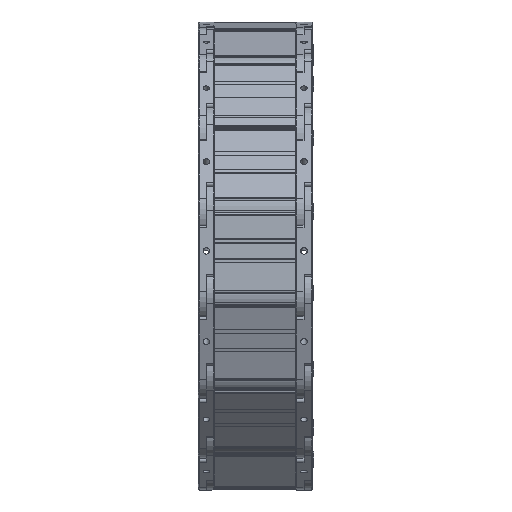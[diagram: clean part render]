
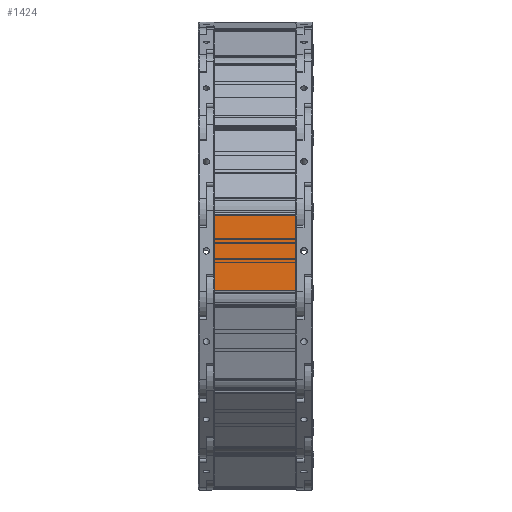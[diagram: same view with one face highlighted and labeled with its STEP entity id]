
A CAD part, front view. The second image highlights one B-rep face of the part: STEP entity #1424.
In plain terms, the highlighted planar face has unit normal (0, -0.999, 0.04) as drawn and (0, 0, -1) by its records, which use the part's own axes.
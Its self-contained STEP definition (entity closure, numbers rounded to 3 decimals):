
#200=CARTESIAN_POINT('',(20.,78.787,-36.5));
#201=VERTEX_POINT('',#200);
#252=CARTESIAN_POINT('',(20.,98.862,-36.5));
#253=VERTEX_POINT('',#252);
#261=CARTESIAN_POINT('',(20.,78.787,-36.5));
#262=DIRECTION('',(0.0,1.0,0.0));
#263=VECTOR('',#262,20.075);
#264=LINE('',#261,#263);
#265=EDGE_CURVE('',#201,#253,#264,.T.);
#1329=CARTESIAN_POINT('',(20.0,6.138,-36.5));
#1330=VERTEX_POINT('',#1329);
#1338=CARTESIAN_POINT('',(120.0,6.138,-36.5));
#1339=VERTEX_POINT('',#1338);
#1340=CARTESIAN_POINT('',(20.0,6.138,-36.5));
#1341=DIRECTION('',(1.0,0.0,0.0));
#1342=VECTOR('',#1341,100.0);
#1343=LINE('',#1340,#1342);
#1344=EDGE_CURVE('',#1330,#1339,#1343,.T.);
#1362=CARTESIAN_POINT('',(120.,21.213,-36.5));
#1363=VERTEX_POINT('',#1362);
#1385=CARTESIAN_POINT('',(120.,21.213,-36.5));
#1386=DIRECTION('',(0.0,-1.0,0.0));
#1387=VECTOR('',#1386,15.075);
#1388=LINE('',#1385,#1387);
#1389=EDGE_CURVE('',#1363,#1339,#1388,.T.);
#1394=CARTESIAN_POINT('',(70.,50.,-36.5));
#1395=DIRECTION('',(0.0,0.0,-1.0));
#1396=DIRECTION('',(1.0,0.0,0.0));
#1397=AXIS2_PLACEMENT_3D('',#1394,#1395,#1396);
#1398=PLANE('',#1397);
#1399=CARTESIAN_POINT('',(20.,78.787,-36.5));
#1400=DIRECTION('',(0.0,-1.0,0.0));
#1401=VECTOR('',#1400,72.649);
#1402=LINE('',#1399,#1401);
#1403=EDGE_CURVE('',#201,#1330,#1402,.T.);
#1404=ORIENTED_EDGE('',*,*,#1403,.F.);
#1405=ORIENTED_EDGE('',*,*,#265,.T.);
#1406=CARTESIAN_POINT('',(120.,98.862,-36.5));
#1407=VERTEX_POINT('',#1406);
#1408=CARTESIAN_POINT('',(20.,98.862,-36.5));
#1409=DIRECTION('',(1.0,0.0,0.0));
#1410=VECTOR('',#1409,100.0);
#1411=LINE('',#1408,#1410);
#1412=EDGE_CURVE('',#253,#1407,#1411,.T.);
#1413=ORIENTED_EDGE('',*,*,#1412,.T.);
#1414=CARTESIAN_POINT('',(120.,21.213,-36.5));
#1415=DIRECTION('',(0.0,1.0,0.0));
#1416=VECTOR('',#1415,77.649);
#1417=LINE('',#1414,#1416);
#1418=EDGE_CURVE('',#1363,#1407,#1417,.T.);
#1419=ORIENTED_EDGE('',*,*,#1418,.F.);
#1420=ORIENTED_EDGE('',*,*,#1389,.T.);
#1421=ORIENTED_EDGE('',*,*,#1344,.F.);
#1422=EDGE_LOOP('',(#1404,#1405,#1413,#1419,#1420,#1421));
#1423=FACE_OUTER_BOUND('',#1422,.T.);
#1424=ADVANCED_FACE('',(#1423),#1398,.T.);
